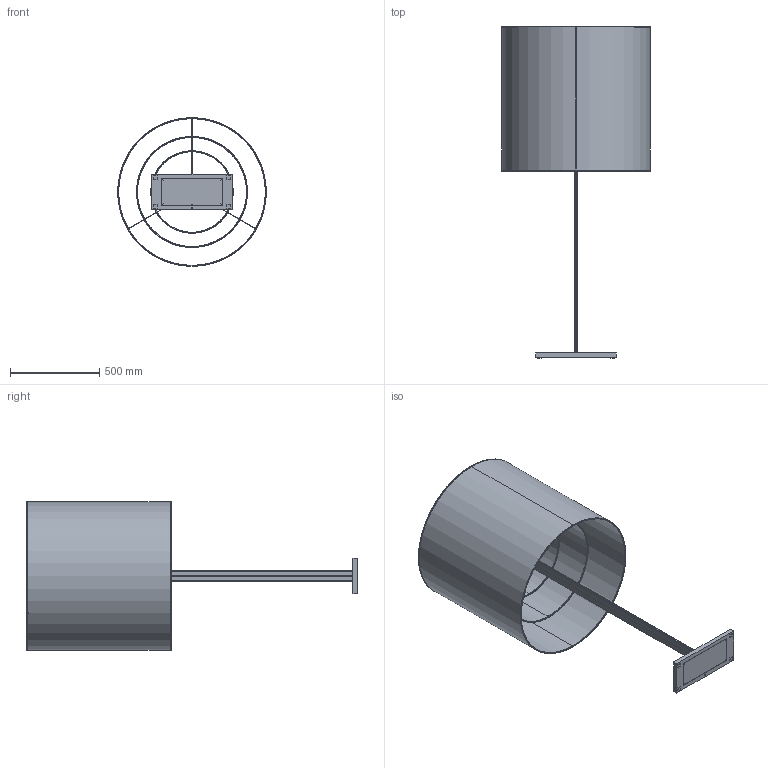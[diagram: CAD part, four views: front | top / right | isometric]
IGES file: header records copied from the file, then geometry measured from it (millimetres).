
Start section: SolidWorks IGES file using analytic representation for surfaces
Global section: file name: C:\SANTACOLE_PDM\Proyectos Catálogo\PROD-P13-045 -- MOARÉ\6_Técnico comercial\3D\Moare.IGS; native system: SolidWorks 2019; preprocessor: SolidWorks 2019; author: louis.ferraz; date: 200402.165144; units: millimetre
Bounding box: 830 x 1855 x 830 mm (x, y, z)
Surface area: 9567120.3 mm2 (no closed solid volume)
Topology: 0 solids, 0 shells, 788 faces, 9472 edges, 9444 vertices
Faces by surface type: revolution 456, bspline 332
